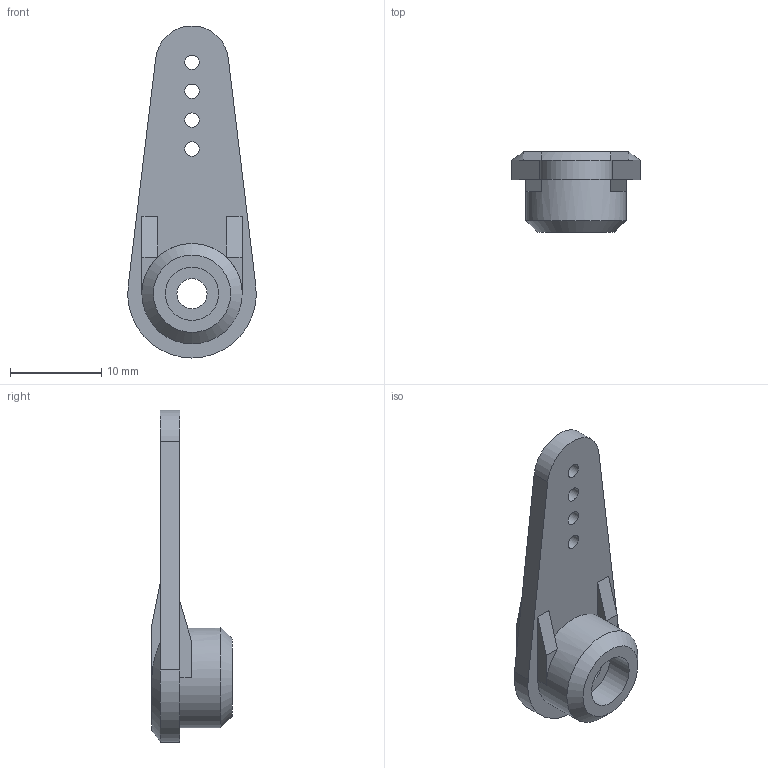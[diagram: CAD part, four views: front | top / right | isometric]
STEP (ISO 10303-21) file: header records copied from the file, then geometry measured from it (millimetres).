
FILE_DESCRIPTION(/* description */ ('SUPER STRENGTH LONG SERVO MEDIUM ARM'),/* implementation_level */ '2;1');
FILE_NAME(/* name */ 'C:\IV2022WorkFolder\Designs\Bob\VENDORS\MECHANICAL\Dubro\Arm_publish\670_M SUPER STRENGTH LONG SERVO MEDIUM ARM.stp',/* time_stamp */ '2022-08-04T11:48:30-05:00',/* author */ ('dotwibo2'),/* organization */ (''),/* preprocessor_version */ 'ST-DEVELOPER v18.1',/* originating_system */ 'Autodesk Inventor 2022',/* authorisation */ '');
FILE_SCHEMA (('CONFIG_CONTROL_DESIGN'));
Length unit declared in the file: millimetre
Products named in the file (1): 670 M
Bounding box: 14.09 x 8.8 x 36.44 mm (x, y, z)
Volume: 1211.5 mm3; surface area: 1323.9 mm2
Topology: 1 solids, 1 shells, 36 faces, 89 edges, 58 vertices
Faces by surface type: plane 22, cylinder 10, cone 4
Full cylindrical faces by diameter (mm): 1.587 x4, 3.3 x1, 5.85 x1, 6.5 x1, 11 x1
Entity records: 1131 total; most frequent: CARTESIAN_POINT 192, DIRECTION 190, ORIENTED_EDGE 178, EDGE_CURVE 89, AXIS2_PLACEMENT_3D 68, VERTEX_POINT 58, LINE 54, VECTOR 54
